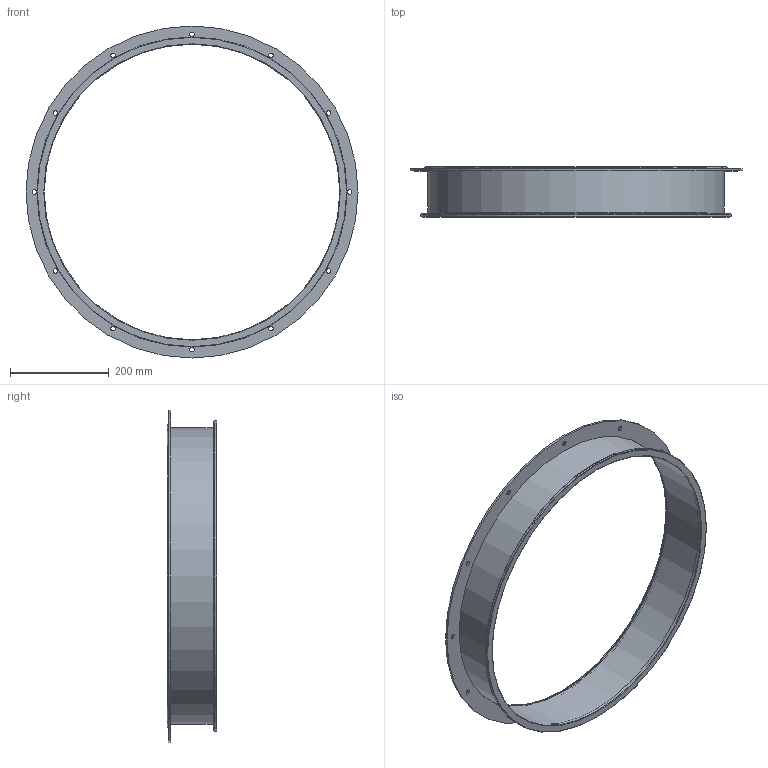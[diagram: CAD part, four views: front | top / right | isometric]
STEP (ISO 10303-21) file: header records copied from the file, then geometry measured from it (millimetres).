
FILE_DESCRIPTION(/* description */ (''),/* implementation_level */ '2;1');
FILE_NAME(/* name */ 'METU_EA112-41B_600_L100.stp',/* time_stamp */ '2018-10-10T13:34:56+02:00',/* author */ (''),/* organization */ (''),/* preprocessor_version */ 'ST-DEVELOPER v11',/* originating_system */ 'SIEMENS UGS NX 6.0',/* authorisation */ '');
FILE_SCHEMA (('CONFIG_CONTROL_DESIGN'));
Length unit declared in the file: millimetre
Products named in the file (1): garsCF17de9q
Bounding box: 674 x 101.5 x 674 mm (x, y, z)
Volume: 701787.8 mm3; surface area: 664839.9 mm2
Topology: 3 solids, 3 shells, 36 faces, 93 edges, 66 vertices
Faces by surface type: cylinder 21, plane 9, torus 5, cone 1
Full cylindrical faces by diameter (mm): 9.5 x12, 600 x2, 602 x2, 604 x1, 612 x2, 630 x1, 674 x1
Entity records: 986 total; most frequent: DIRECTION 170, CARTESIAN_POINT 133, FACE_BOUND 96, EDGE_LOOP 96, ORIENTED_EDGE 96, AXIS2_PLACEMENT_3D 85, VERTEX_POINT 48, EDGE_CURVE 48
